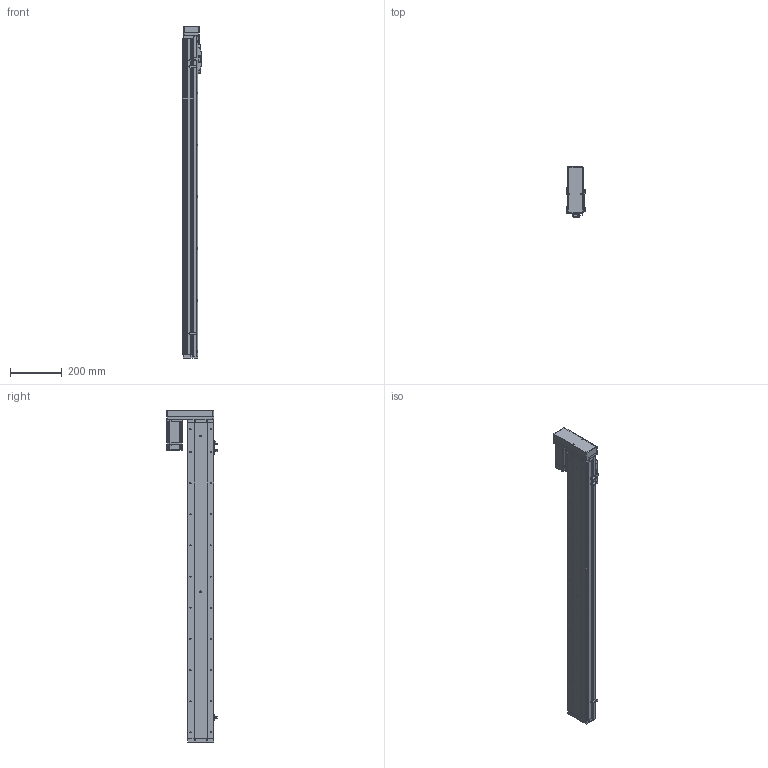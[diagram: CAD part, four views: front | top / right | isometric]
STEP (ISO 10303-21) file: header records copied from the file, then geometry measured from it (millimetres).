
FILE_DESCRIPTION (( 'STEP AP214' ), '1' );
FILE_NAME ('KSD100S-S1050-ML-CR.STEP', '2019-09-02T08:32:53', ( '微软用户' ), ( '微软中国' ), 'SwSTEP 2.0', 'SolidWorks 2014', '' );
FILE_SCHEMA (( 'AUTOMOTIVE_DESIGN' ));
Length unit declared in the file: millimetre
Products named in the file (14): 感应片100宽全封闭; 100遵裔啣揤啣; 100宽马达安装板全封闭; 100宽端板全封闭; 100宽滚珠螺姆安装板1防护罩; 100宽滚珠螺姆安装板1; 100遵裔啣1050俴最; 100遵耜啣1050俴最佪裝; 100宽底板全封闭1050行程丝杆; KSD100S-S1050-ML-CR; MHMD042G1CA_2_03; 悵誘欶酘衵殏; 100宽马达安装板连板左右折丝杆; U倰嫖萇EEㄜSX672
Assembly tree (16 placements, depth 2):
  KSD100S-S1050-ML-CR
    100宽底板全封闭1050行程丝杆
    100遵耜啣1050俴最佪裝  x2
    100遵裔啣1050俴最
    100宽滚珠螺姆安装板1
    100宽滚珠螺姆安装板1防护罩
    100宽端板全封闭
    100宽马达安装板全封闭
    100遵裔啣揤啣
    感应片100宽全封闭
    U倰嫖萇EEㄜSX672  x3
    100宽马达安装板连板左右折丝杆
    悵誘欶酘衵殏
    MHMD042G1CA_2_03
Bounding box: 70 x 193.7 x 1278.5 mm (x, y, z)
Volume: 2516440 mm3; surface area: 1118206.1 mm2
Topology: 15 solids, 16 shells, 1768 faces, 4949 edges, 3130 vertices
Faces by surface type: cylinder 777, plane 696, cone 277, bspline 18
Entity records: 60042 total; most frequent: CARTESIAN_POINT 9519, DIRECTION 8541, ORIENTED_EDGE 7868, EDGE_CURVE 4006, AXIS2_PLACEMENT_3D 3084, VERTEX_POINT 2652, VECTOR 2373, LINE 2373
